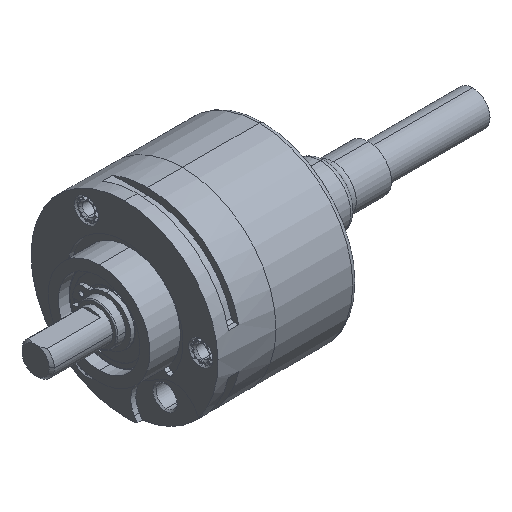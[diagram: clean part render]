
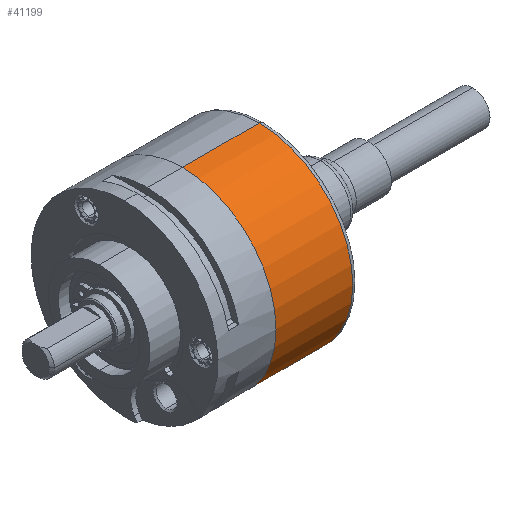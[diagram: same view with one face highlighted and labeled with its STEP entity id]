
A CAD part, isometric view. The second image highlights one B-rep face of the part: STEP entity #41199.
In plain terms, the highlighted cylindrical face has radius 18.4 mm (diameter 36.8 mm), a partial arc.
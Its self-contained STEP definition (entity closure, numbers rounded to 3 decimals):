
#3159 = DIRECTION ( 'NONE',  ( -1., 0., 0. ) ) ;
#3160 = VECTOR ( 'NONE', #3159, 1000. ) ;
#3161 = CARTESIAN_POINT ( 'NONE',  ( -35.111, 5.115, 18.4 ) ) ;
#3162 = LINE ( 'NONE', #3161, #3160 ) ;
#6342 = DIRECTION ( 'NONE',  ( -1., 0., 0. ) ) ;
#6343 = VECTOR ( 'NONE', #6342, 1000. ) ;
#6344 = CARTESIAN_POINT ( 'NONE',  ( -35.111, 5.115, -18.4 ) ) ;
#6346 = LINE ( 'NONE', #6344, #6343 ) ;
#7080 = CARTESIAN_POINT ( 'NONE',  ( -20.611, 5.115, -18.4 ) ) ;
#7115 = CARTESIAN_POINT ( 'NONE',  ( -20.611, 5.115, 18.4 ) ) ;
#7256 = CARTESIAN_POINT ( 'NONE',  ( -35.711, 5.115, -18.4 ) ) ;
#7269 = CARTESIAN_POINT ( 'NONE',  ( -35.711, 5.115, 18.4 ) ) ;
#8196 = DIRECTION ( 'NONE',  ( 0., 0., 1. ) ) ;
#8197 = DIRECTION ( 'NONE',  ( -1., 0., 0. ) ) ;
#8198 = CARTESIAN_POINT ( 'NONE',  ( -20.611, 5.115, 0. ) ) ;
#8226 = AXIS2_PLACEMENT_3D ( 'NONE', #8198, #8197, #8196 ) ;
#8227 = CIRCLE ( 'NONE', #8226, 18.4 ) ;
#9869 = DIRECTION ( 'NONE',  ( 0., 0., 1. ) ) ;
#9870 = DIRECTION ( 'NONE',  ( -1., 0., 0. ) ) ;
#9871 = CARTESIAN_POINT ( 'NONE',  ( -35.111, 5.115, 0. ) ) ;
#9872 = AXIS2_PLACEMENT_3D ( 'NONE', #9871, #9870, #9869 ) ;
#9873 = CYLINDRICAL_SURFACE ( 'NONE', #9872, 18.4 ) ;
#9888 = FACE_OUTER_BOUND ( 'NONE', #41200, .T. ) ;
#9889 = DIRECTION ( 'NONE',  ( 0., 0., 1. ) ) ;
#9890 = DIRECTION ( 'NONE',  ( -1., 0., 0. ) ) ;
#9891 = CARTESIAN_POINT ( 'NONE',  ( -35.711, 5.115, 0. ) ) ;
#9892 = AXIS2_PLACEMENT_3D ( 'NONE', #9891, #9890, #9889 ) ;
#9898 = CIRCLE ( 'NONE', #9892, 18.4 ) ;
#40398 = EDGE_CURVE ( 'NONE', #40972, #40994, #3162, .T. ) ;
#40754 = EDGE_CURVE ( 'NONE', #40966, #40991, #6346, .T. ) ;
#40966 = VERTEX_POINT ( 'NONE', #7080 ) ;
#40972 = VERTEX_POINT ( 'NONE', #7115 ) ;
#40991 = VERTEX_POINT ( 'NONE', #7256 ) ;
#40994 = VERTEX_POINT ( 'NONE', #7269 ) ;
#41198 = EDGE_CURVE ( 'NONE', #40991, #40994, #9898, .T. ) ;
#41199 = ADVANCED_FACE ( 'NONE', ( #9888 ), #9873, .T. ) ;
#41200 = EDGE_LOOP ( 'NONE', ( #41404, #41407, #41413, #41415 ) ) ;
#41404 = ORIENTED_EDGE ( 'NONE', *, *, #40754, .F. ) ;
#41407 = ORIENTED_EDGE ( 'NONE', *, *, #41410, .T. ) ;
#41410 = EDGE_CURVE ( 'NONE', #40966, #40972, #8227, .T. ) ;
#41413 = ORIENTED_EDGE ( 'NONE', *, *, #40398, .T. ) ;
#41415 = ORIENTED_EDGE ( 'NONE', *, *, #41198, .F. ) ;
